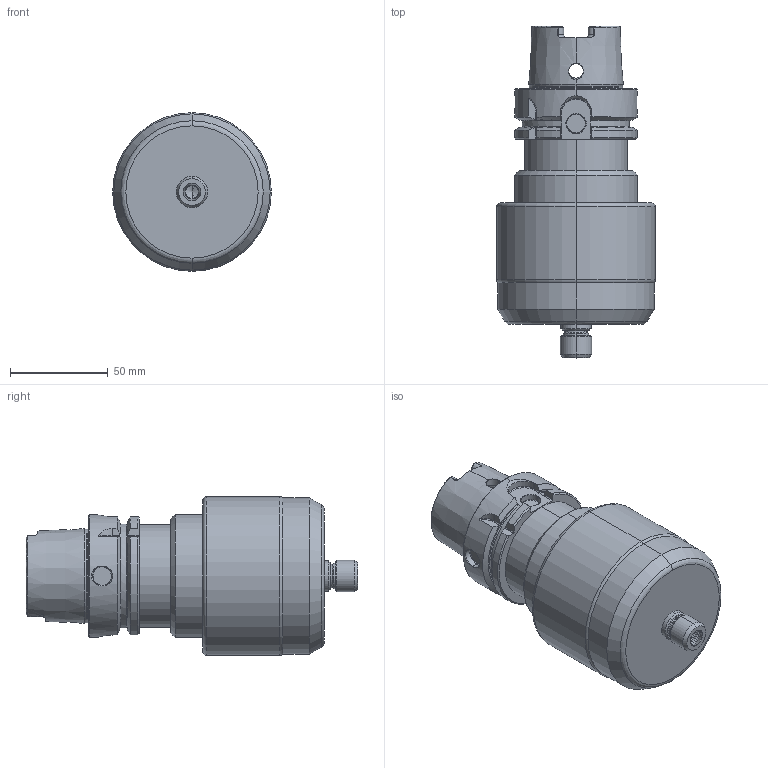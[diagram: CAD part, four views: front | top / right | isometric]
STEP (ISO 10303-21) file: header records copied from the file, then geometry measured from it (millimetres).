
FILE_DESCRIPTION (( 'STEP AP214' ), '1' );
FILE_NAME ('TJS-HPC-HSK A63-Light.STEP', '2017-06-19T04:56:55', ( '' ), ( '' ), 'SwSTEP 2.0', 'SolidWorks 2015', '' );
FILE_SCHEMA (( 'AUTOMOTIVE_DESIGN' ));
Length unit declared in the file: millimetre
Products named in the file (1): TJS-HPC-HSK A63-Light
Bounding box: 81.3 x 170.01 x 81.3 mm (x, y, z)
Volume: 481360.7 mm3; surface area: 50976 mm2
Topology: 1 solids, 1 shells, 259 faces, 657 edges, 410 vertices
Faces by surface type: cylinder 82, cone 74, plane 57, torus 45, bspline 1
Entity records: 10323 total; most frequent: CARTESIAN_POINT 4170, ORIENTED_EDGE 1310, DIRECTION 1282, EDGE_CURVE 655, AXIS2_PLACEMENT_3D 537, VERTEX_POINT 410, CIRCLE 278, EDGE_LOOP 275
